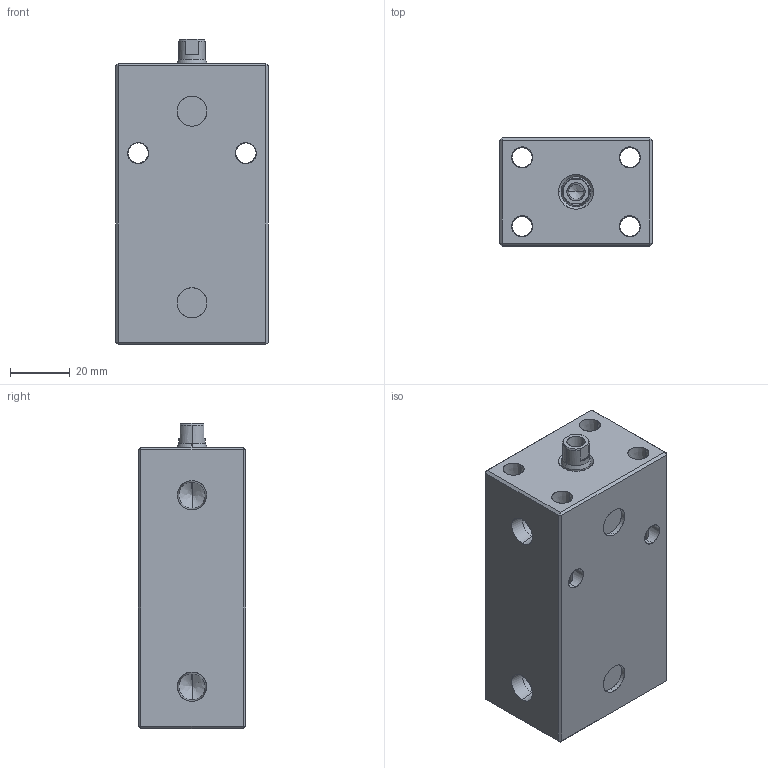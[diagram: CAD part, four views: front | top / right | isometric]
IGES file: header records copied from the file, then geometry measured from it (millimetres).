
Start section: SolidWorks IGES file using analytic representation for surfaces
Global section: file name: E:\ALL-SSVT-BLOCK\IGS-MODEL\BC04-16-50.IGS; native system: SolidWorks 2019; preprocessor: SolidWorks 2019; author: SSVT; date: 210823.153042; units: millimetre
Bounding box: 51 x 36 x 102 mm (x, y, z)
Surface area: 33665.3 mm2 (no closed solid volume)
Topology: 0 solids, 0 shells, 96 faces, 1629 edges, 1623 vertices
Faces by surface type: revolution 63, bspline 33
